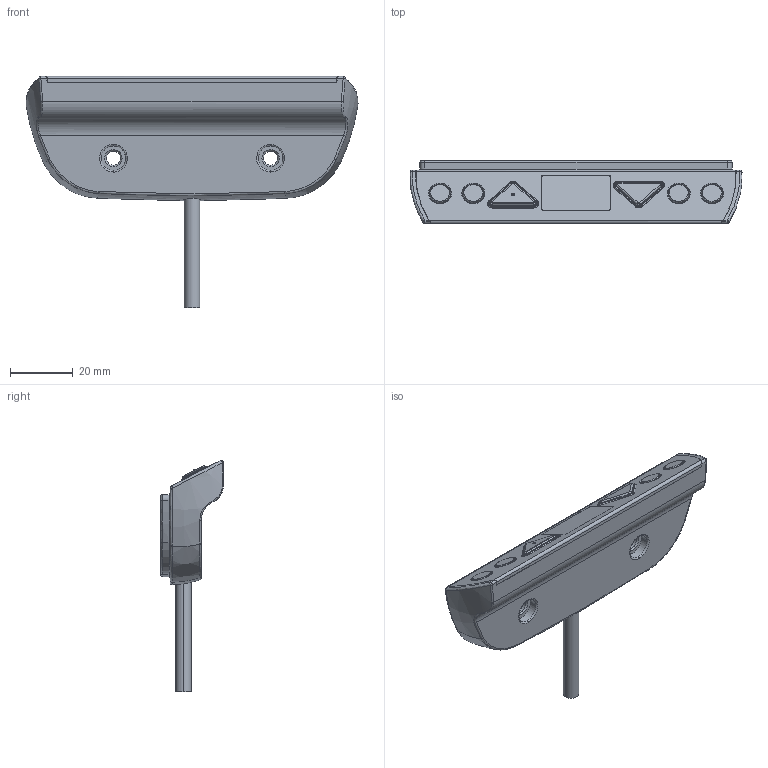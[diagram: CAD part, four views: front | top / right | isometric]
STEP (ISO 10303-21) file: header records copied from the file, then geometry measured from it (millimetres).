
FILE_DESCRIPTION (( 'STEP AP203' ), '1' );
FILE_NAME ('TDH5.STEP', '2015-01-05T03:05:20', ( '' ), ( '' ), 'SwSTEP 2.0', 'SolidWorks 2010', '' );
FILE_SCHEMA (( 'CONFIG_CONTROL_DESIGN' ));
Length unit declared in the file: millimetre
Products named in the file (1): TDH5
Bounding box: 105.69 x 20 x 73.59 mm (x, y, z)
Volume: 46288.1 mm3; surface area: 22611.8 mm2
Topology: 14 solids, 14 shells, 630 faces, 1519 edges, 869 vertices
Faces by surface type: bspline 270, cylinder 207, plane 149, cone 4
Entity records: 33732 total; most frequent: CARTESIAN_POINT 21273, ORIENTED_EDGE 2920, DIRECTION 2144, EDGE_CURVE 1460, VERTEX_POINT 869, AXIS2_PLACEMENT_3D 842, EDGE_LOOP 661, ADVANCED_FACE 630
